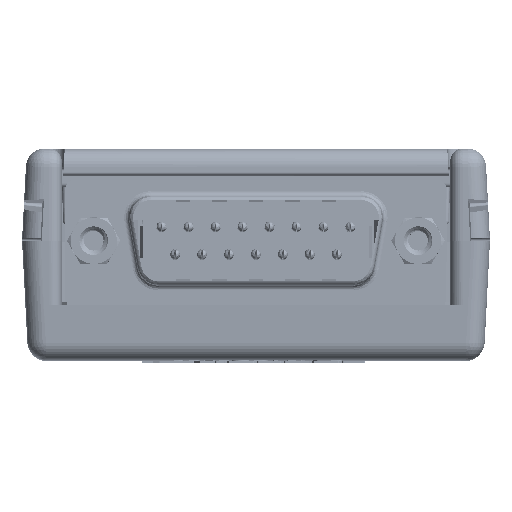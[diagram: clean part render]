
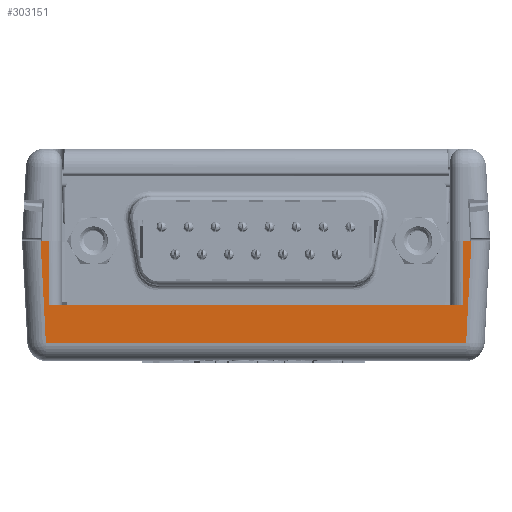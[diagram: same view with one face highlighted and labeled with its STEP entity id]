
A CAD part, top view. The second image highlights one B-rep face of the part: STEP entity #303151.
In plain terms, the highlighted planar face has unit normal (0, -0.052, 0.999).
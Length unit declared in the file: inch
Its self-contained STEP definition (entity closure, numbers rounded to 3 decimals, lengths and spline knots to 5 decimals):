
#9649 = VERTEX_POINT ( 'NONE', #266304 ) ;
#10284 = CARTESIAN_POINT ( 'NONE',  ( -0.0749, 0.48397, 0. ) ) ;
#20577 = EDGE_CURVE ( 'NONE', #734334, #269118, #89441, .T. ) ;
#39214 = AXIS2_PLACEMENT_3D ( 'NONE', #828728, #633327, #831493 ) ;
#65902 = LINE ( 'NONE', #10284, #673919 ) ;
#81959 = CARTESIAN_POINT ( 'NONE',  ( -1.7818, 0.484, 0. ) ) ;
#89441 = LINE ( 'NONE', #547154, #606453 ) ;
#98428 = VERTEX_POINT ( 'NONE', #686017 ) ;
#105927 = VERTEX_POINT ( 'NONE', #81959 ) ;
#114725 = ORIENTED_EDGE ( 'NONE', *, *, #481757, .T. ) ;
#137714 = DIRECTION ( 'NONE',  ( 1., 0., 0. ) ) ;
#154904 = DIRECTION ( 'NONE',  ( 0., 0.999, 0.052 ) ) ;
#201720 = VERTEX_POINT ( 'NONE', #489972 ) ;
#203052 = CARTESIAN_POINT ( 'NONE',  ( -0.09654, 0.07107, -0.02164 ) ) ;
#237071 = DIRECTION ( 'NONE',  ( 1., 0., 0. ) ) ;
#247378 = LINE ( 'NONE', #277970, #449734 ) ;
#254674 = CARTESIAN_POINT ( 'NONE',  ( -1.79606, 0.07107, -0.02164 ) ) ;
#261710 = EDGE_CURVE ( 'NONE', #269118, #443019, #247378, .T. ) ;
#266304 = CARTESIAN_POINT ( 'NONE',  ( -0.1108, 0.484, 0. ) ) ;
#267164 = VECTOR ( 'NONE', #433651, 39.37008 ) ;
#269118 = VERTEX_POINT ( 'NONE', #254674 ) ;
#277970 = CARTESIAN_POINT ( 'NONE',  ( -0.02537, 0.07107, -0.02164 ) ) ;
#291418 = EDGE_CURVE ( 'NONE', #443019, #98428, #65902, .T. ) ;
#299276 = LINE ( 'NONE', #564906, #360169 ) ;
#303151 = ADVANCED_FACE ( 'NONE', ( #813213 ), #378289, .T. ) ;
#315184 = ORIENTED_EDGE ( 'NONE', *, *, #603822, .T. ) ;
#321716 = ORIENTED_EDGE ( 'NONE', *, *, #20577, .T. ) ;
#349191 = LINE ( 'NONE', #596830, #521623 ) ;
#352291 = EDGE_CURVE ( 'NONE', #201720, #450509, #398752, .T. ) ;
#358738 = EDGE_CURVE ( 'NONE', #9649, #98428, #770504, .T. ) ;
#360169 = VECTOR ( 'NONE', #434632, 39.37008 ) ;
#378289 = PLANE ( 'NONE',  #39214 ) ;
#392719 = DIRECTION ( 'NONE',  ( 0.052, 0.997, 0.052 ) ) ;
#398752 = LINE ( 'NONE', #756650, #267164 ) ;
#433651 = DIRECTION ( 'NONE',  ( 1., 0., 0. ) ) ;
#434632 = DIRECTION ( 'NONE',  ( 0., -0.999, -0.052 ) ) ;
#443019 = VERTEX_POINT ( 'NONE', #203052 ) ;
#449734 = VECTOR ( 'NONE', #728412, 39.37008 ) ;
#450509 = VERTEX_POINT ( 'NONE', #744265 ) ;
#481757 = EDGE_CURVE ( 'NONE', #201720, #105927, #349191, .T. ) ;
#489972 = CARTESIAN_POINT ( 'NONE',  ( -1.7818, 0.224, -0.01363 ) ) ;
#508286 = EDGE_LOOP ( 'NONE', ( #676275, #315184, #657983, #114725, #536233, #321716, #729199, #562993 ) ) ;
#521623 = VECTOR ( 'NONE', #154904, 39.37008 ) ;
#536233 = ORIENTED_EDGE ( 'NONE', *, *, #722478, .F. ) ;
#547154 = CARTESIAN_POINT ( 'NONE',  ( -1.81294, 0.39319, -0.00476 ) ) ;
#562993 = ORIENTED_EDGE ( 'NONE', *, *, #291418, .T. ) ;
#564906 = CARTESIAN_POINT ( 'NONE',  ( -0.1108, 0.484, 0. ) ) ;
#576055 = LINE ( 'NONE', #605592, #616722 ) ;
#587498 = VECTOR ( 'NONE', #137714, 39.37008 ) ;
#596830 = CARTESIAN_POINT ( 'NONE',  ( -1.7818, 0.484, 0. ) ) ;
#603822 = EDGE_CURVE ( 'NONE', #9649, #450509, #299276, .T. ) ;
#605592 = CARTESIAN_POINT ( 'NONE',  ( -0.07546, 0.484, 0. ) ) ;
#606453 = VECTOR ( 'NONE', #674627, 39.37008 ) ;
#616722 = VECTOR ( 'NONE', #237071, 39.37008 ) ;
#633327 = DIRECTION ( 'NONE',  ( 0., -0.052, 0.999 ) ) ;
#655993 = CARTESIAN_POINT ( 'NONE',  ( -0.07546, 0.484, 0. ) ) ;
#657983 = ORIENTED_EDGE ( 'NONE', *, *, #352291, .F. ) ;
#673919 = VECTOR ( 'NONE', #392719, 39.37008 ) ;
#674627 = DIRECTION ( 'NONE',  ( 0.052, -0.997, -0.052 ) ) ;
#676275 = ORIENTED_EDGE ( 'NONE', *, *, #358738, .F. ) ;
#686017 = CARTESIAN_POINT ( 'NONE',  ( -0.0749, 0.484, 0. ) ) ;
#722478 = EDGE_CURVE ( 'NONE', #734334, #105927, #576055, .T. ) ;
#728412 = DIRECTION ( 'NONE',  ( 1., 0., 0. ) ) ;
#729199 = ORIENTED_EDGE ( 'NONE', *, *, #261710, .T. ) ;
#734334 = VERTEX_POINT ( 'NONE', #804745 ) ;
#744265 = CARTESIAN_POINT ( 'NONE',  ( -0.1108, 0.224, -0.01363 ) ) ;
#756650 = CARTESIAN_POINT ( 'NONE',  ( -1.7318, 0.224, -0.01363 ) ) ;
#770504 = LINE ( 'NONE', #655993, #587498 ) ;
#804745 = CARTESIAN_POINT ( 'NONE',  ( -1.8177, 0.484, 0. ) ) ;
#813213 = FACE_OUTER_BOUND ( 'NONE', #508286, .T. ) ;
#828728 = CARTESIAN_POINT ( 'NONE',  ( -0.07546, 0.484, 0. ) ) ;
#831493 = DIRECTION ( 'NONE',  ( 0., -0.999, -0.052 ) ) ;
